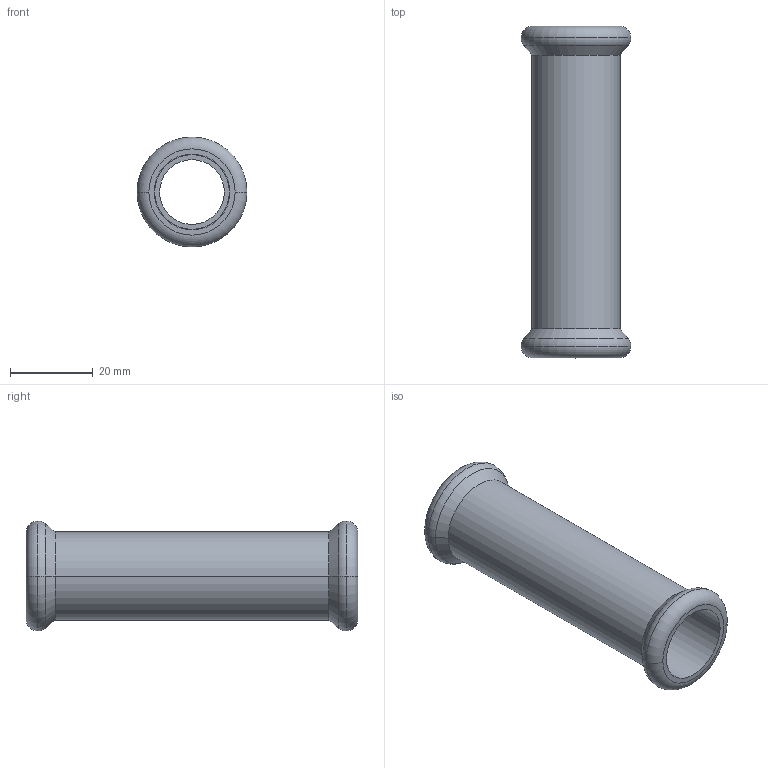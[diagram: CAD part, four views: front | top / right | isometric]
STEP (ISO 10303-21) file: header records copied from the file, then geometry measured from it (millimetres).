
FILE_DESCRIPTION(('CoCreate Modeling STEP Export'),'2;1');
FILE_NAME('C1403 18x18.stp','2014-11-07T14:03:56',(''),(''),'CoCreate Modeling STEP processor for AP214 (Solid Model)','CoCreate Modeling 17.00A 17-Jun-2010 (C) Parametric Technology GmbH','');
FILE_SCHEMA(('AUTOMOTIVE_DESIGN { 1 0 10303 214 1 1 1 1 }'));
Length unit declared in the file: millimetre
Products named in the file (2): C1403_18x18
Assembly tree (1 placements, depth 2):
  C1403_18x18
    C1403_18x18
Bounding box: 26.5 x 80 x 26.5 mm (x, y, z)
Volume: 12084.4 mm3; surface area: 10525.9 mm2
Topology: 1 solids, 1 shells, 30 faces, 62 edges, 38 vertices
Faces by surface type: cylinder 12, torus 8, plane 6, cone 4
Entity records: 691 total; most frequent: ORIENTED_EDGE 124, DIRECTION 104, CARTESIAN_POINT 98, EDGE_CURVE 62, AXIS2_PLACEMENT_3D 44, VERTEX_POINT 38, EDGE_LOOP 36, FACE_OUTER_BOUND 30
